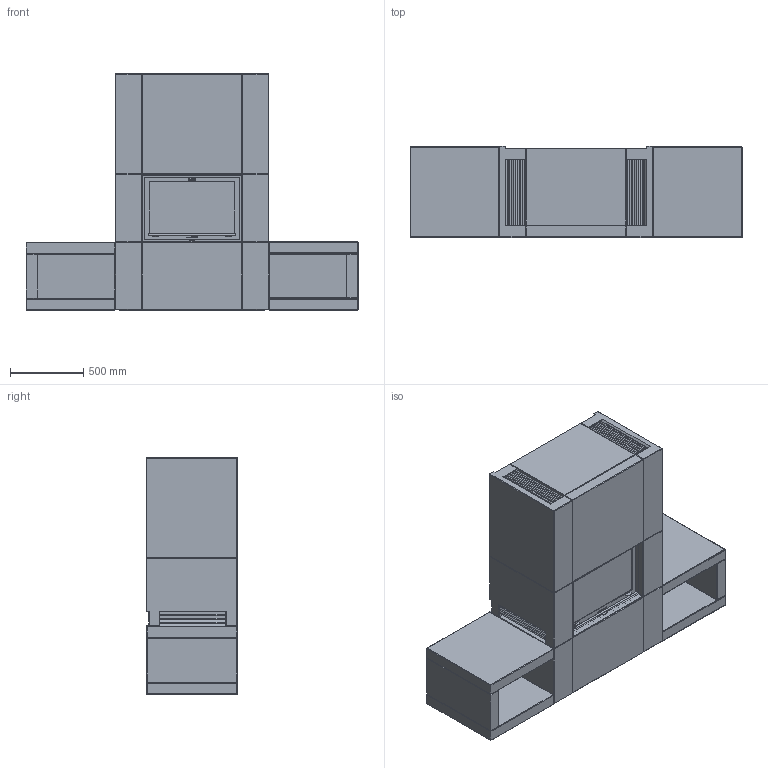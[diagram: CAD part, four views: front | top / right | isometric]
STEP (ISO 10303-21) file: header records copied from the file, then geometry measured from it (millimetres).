
FILE_DESCRIPTION( ( 'Unknown' ), '1' );
FILE_NAME( 'C:/Documents and Settings/hapierrea/Application Data/Unigraphics Solutions/Solid Edge/Insight/insight/Insight/interior models/C11C p Wood Storage L R Assembly.stp', '2010', ( 'Unknown' ), ( 'NIBE AB' ), 'PSStep 11.0', 'Solid Edge', ' ' );
FILE_SCHEMA( ( 'AUTOMOTIVE_DESIGN { 1 0 10303 214 1 1 1 1 }' ) );
Length unit declared in the file: millimetre
Products named in the file (29): Assem1; Fire i10; Grate i10 i20; Grills C11; Front set C11C; Insert i10; Firebox insulation i10; Door i10; Door frame i10; Concrete set C11-oa0; Wood storage right C11; Wood storage left C11; Glass i10
Bounding box: 2270 x 620 x 1618.01 mm (x, y, z)
Volume: 2237645019.8 mm3; surface area: 57492648.8 mm2
Topology: 56 solids, 56 shells, 3384 faces, 8772 edges, 5754 vertices
Faces by surface type: plane 2510, extrusion 570, cylinder 280, cone 20, sphere 4
Full cylindrical faces by diameter (mm): 10 x32, 12 x2, 100 x6, 200 x6
Entity records: 72027 total; most frequent: CARTESIAN_POINT 18489, ORIENTED_EDGE 8720, DIRECTION 6864, EDGE_CURVE 4360, VECTOR 2934, VERTEX_POINT 2876, LINE 2649, AXIS2_PLACEMENT_3D 1965
